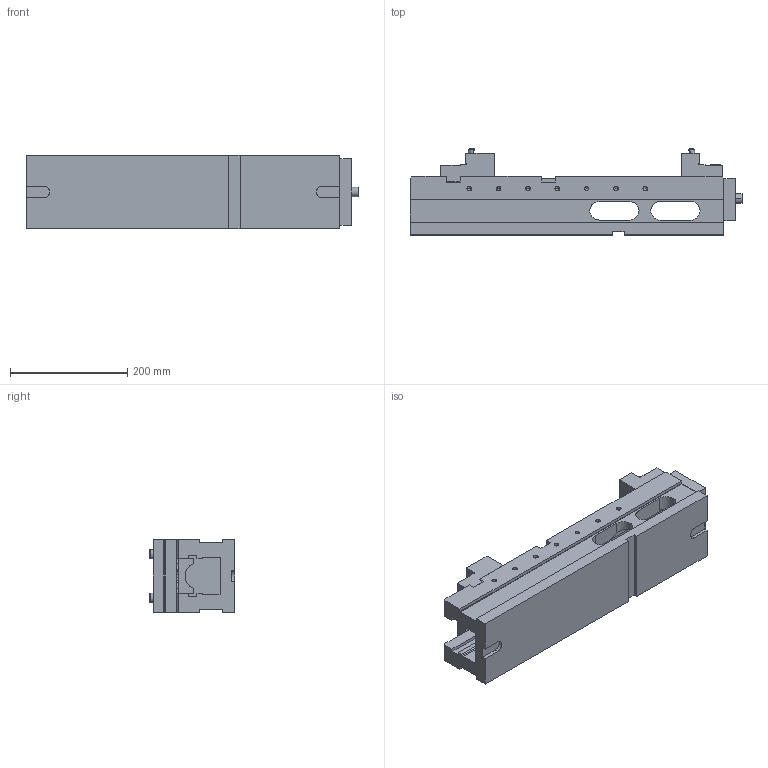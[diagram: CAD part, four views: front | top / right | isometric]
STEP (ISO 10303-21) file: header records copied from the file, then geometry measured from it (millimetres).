
FILE_DESCRIPTION((''),'2;1');
FILE_NAME('FG_VC_HIPR_00SCLNP001_ASM','2026-03-16T12:24:20',('Admin'),(''),'CREO PARAMETRIC BY PTC INC, 2025010','CREO PARAMETRIC BY PTC INC, 2025010','');
FILE_SCHEMA(('CONFIG_CONTROL_DESIGN'));
Length unit declared in the file: millimetre
Products named in the file (10): VICE_BODY; 3D-6921838000055; MOVABLE_JAW_LC125; FIX_JAW_TITAN125; PRT0001; FASE_0_2X450; _8078202012200_-_ROTATION1_; 6921884036000_1_ASM; DIN912-M12X25-12_9; FG_VC_HIPR_00SCLNP001_ASM
Assembly tree (23 placements, depth 3):
  FG_VC_HIPR_00SCLNP001_ASM
    VICE_BODY
    3D-6921838000055
    MOVABLE_JAW_LC125
    FIX_JAW_TITAN125
    PRT0001
    6921884036000_1_ASM  x4
      FASE_0_2X450
      _8078202012200_-_ROTATION1_
    DIN912-M12X25-12_9  x12
Bounding box: 566 x 146.6 x 126 mm (x, y, z)
Volume: 4712886.8 mm3; surface area: 647678.1 mm2
Topology: 25 solids, 61 shells, 1006 faces, 2532 edges, 1616 vertices
Faces by surface type: plane 443, cylinder 341, cone 158, torus 56, bspline 8
Entity records: 20498 total; most frequent: CARTESIAN_POINT 4175, DIRECTION 3491, ORIENTED_EDGE 3156, EDGE_CURVE 1631, AXIS2_PLACEMENT_3D 1266, VERTEX_POINT 1079, VECTOR 959, LINE 959
